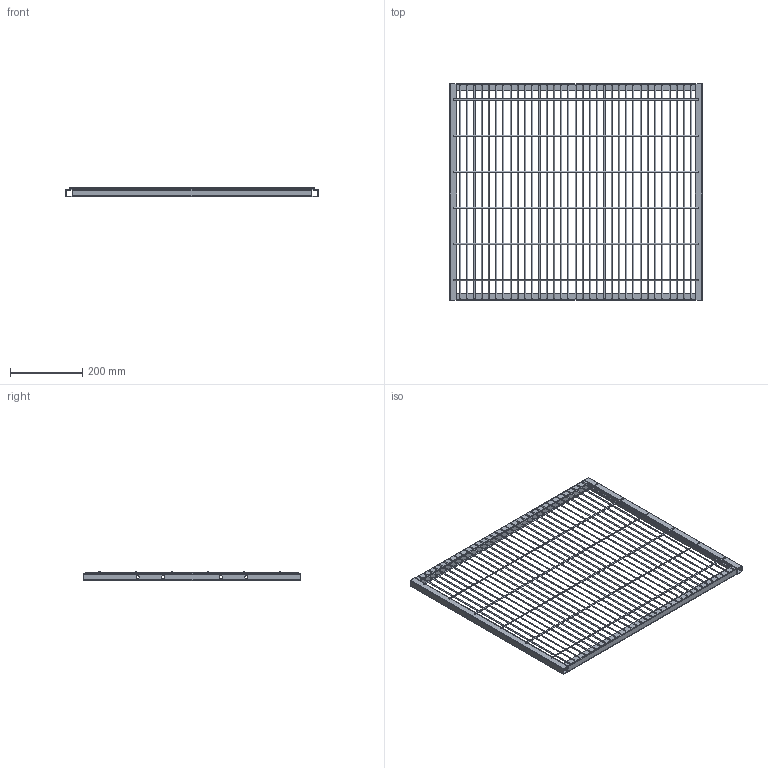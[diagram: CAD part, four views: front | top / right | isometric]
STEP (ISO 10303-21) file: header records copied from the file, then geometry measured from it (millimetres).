
FILE_DESCRIPTION (( 'STEP AP203' ), '1' );
FILE_NAME ('Framed Panel 700 x 600.STEP', '2023-09-15T16:53:39', ( '' ), ( '' ), 'SwSTEP 2.0', 'SolidWorks 2023', '' );
FILE_SCHEMA (( 'CONFIG_CONTROL_DESIGN' ));
Length unit declared in the file: millimetre
Products named in the file (1): Framed Panel 700 x 600
Bounding box: 700 x 600 x 25.99 mm (x, y, z)
Volume: 436866.8 mm3; surface area: 584505.9 mm2
Topology: 43 solids, 43 shells, 260 faces, 522 edges, 348 vertices
Faces by surface type: cylinder 142, plane 118
Entity records: 6963 total; most frequent: DIRECTION 1328, CARTESIAN_POINT 1131, ORIENTED_EDGE 1044, AXIS2_PLACEMENT_3D 545, EDGE_CURVE 522, VERTEX_POINT 348, EDGE_LOOP 300, CIRCLE 284
